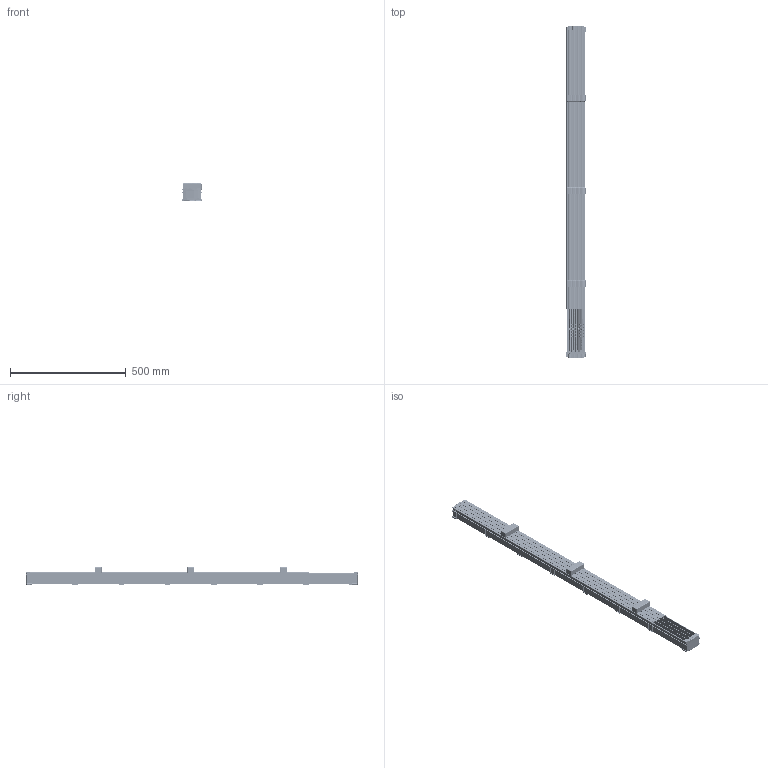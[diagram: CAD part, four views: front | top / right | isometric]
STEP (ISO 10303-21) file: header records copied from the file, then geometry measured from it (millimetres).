
FILE_DESCRIPTION (( 'STEP AP214' ), '1' );
FILE_NAME ('04129.STEP', '2014-04-11T13:35:15', ( '' ), ( '' ), 'SwSTEP 2.0', 'SolidWorks 2014', '' );
FILE_SCHEMA (( 'AUTOMOTIVE_DESIGN' ));
Length unit declared in the file: millimetre
Products named in the file (5): 469432800_5_2; ghq2303800_2_3; 469432600-6.1; 469400700_3_2; 04129
Assembly tree (18 placements, depth 2):
  04129
    469400700_3_2  x6
    469432600-6.1  x7
    ghq2303800_2_3  x3
    469432800_5_2  x2
Bounding box: 85.2 x 1431.65 x 77.09 mm (x, y, z)
Volume: 1400066.9 mm3; surface area: 1412532.7 mm2
Topology: 13 solids, 456 shells, 12761 faces, 34889 edges, 23010 vertices
Faces by surface type: plane 8359, cylinder 3704, bspline 555, cone 112, torus 31
Entity records: 80320 total; most frequent: CARTESIAN_POINT 24249, ORIENTED_EDGE 12003, DIRECTION 11042, EDGE_CURVE 6184, VERTEX_POINT 4086, VECTOR 3990, LINE 3990, AXIS2_PLACEMENT_3D 3526
